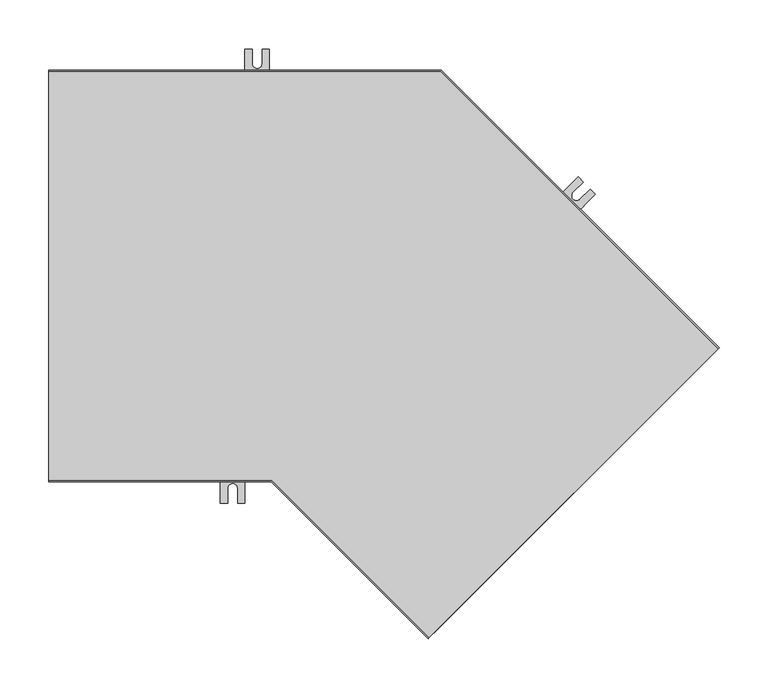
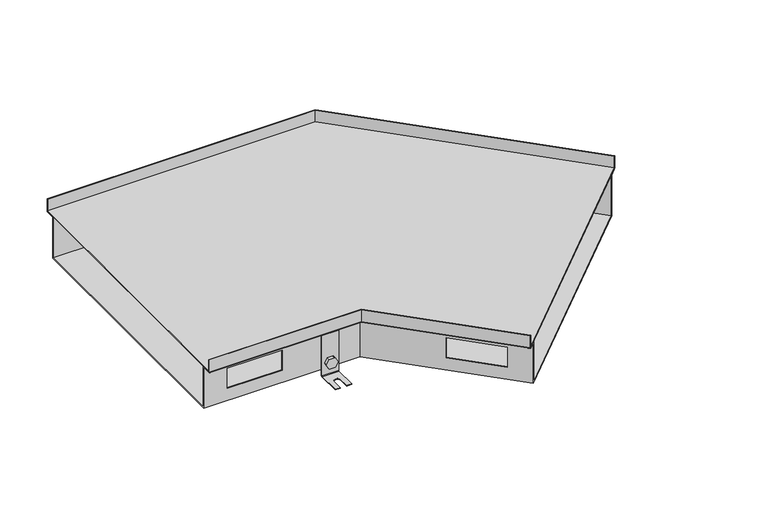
"""IFC4 building model written with IfcOpenShell, lengths in millimetres: proxy geometry, TECHNO_Угловой элемент_KVU : 420_085_135°."""

from ifc_helpers import new_model, si_unit, point, frame, frame_2d, origin, place, context, project, spatial, polyline, circle_curve, ellipse_curve, trimmed, segment, composite_curve, outline, extrude, source, transform, mapped, element, save
from ifc_brep_helpers import plane_surface, cylinder_surface, revolved_surface, advanced_brep


def mechanical_equipment_ce1018f7(model_context):
    return source(origin(), model_context, "Body", "SolidModel", [
        extrude(outline(composite_curve([segment(trimmed(circle_curve(frame_2d((0.0, -7.4999999)), 7.5), [point((0.0, -15.0))], [point((0.0, 0.0))], False, "CARTESIAN"), True, "CONTINUOUS"), segment(trimmed(circle_curve(frame_2d((0.0, -7.4999999)), 7.5), [point((0.0, 0.0))], [point((0.0, -15.0))], False, "CARTESIAN"), True, "CONTINUOUS")], self_intersect=False)), frame((475.1997654, -27.3757464, -75.5), z_axis=(0.7071067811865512, 0.7071067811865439, 0.0), x_axis=(0.0, 0.0, 1.0)), (0.0, 0.0, 1.0), 1.5),
        extrude(outline(polyline([(0.0, 0.0), (8.6602541, 0.0), (12.9903811, -7.5), (8.6602541, -15.0), (0.0, -15.0), (-4.330127, -7.5), (0.0, 0.0)])), frame((459.3179675, -20.4034939, -75.5), z_axis=(0.7071067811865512, 0.7071067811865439, 0.0), x_axis=(0.3535533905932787, -0.3535533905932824, -0.8660254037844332)), (0.0, 0.0, 1.0), 5.1),
        advanced_brep(
        [(477.8867712, -31.7598085, -30.5), (477.8867712, -31.7598085, -93.5), (477.3210858, -32.3254939, -94.3), (453.986562, -55.6600177, -94.3), (453.986562, -55.6600177, -95.5), (477.3210858, -32.3254939, -95.5), (478.7352993, -30.9112804, -93.5), (478.7352993, -30.9112804, -30.5), (460.2091017, -14.082139, -30.5), (461.0576298, -13.2336108, -30.5), (461.0576298, -13.2336108, -93.5), (459.6434162, -14.6478244, -95.5), (436.3088924, -37.9823482, -95.5), (436.3088924, -37.9823482, -94.3), (459.6434162, -14.6478244, -94.3), (460.2091017, -14.082139, -93.5), (441.6121933, -43.285649, -94.3), (452.218795, -32.6790473, -94.3), (459.2898628, -39.7501151, -94.3), (448.6832611, -50.3567168, -94.3), (448.6832611, -50.3567168, -95.5), (441.6121933, -43.285649, -95.5), (459.2898628, -39.7501151, -95.5), (452.218795, -32.6790473, -95.5)],
        [
            (0, 1),
            (1, 2, circle_curve(frame((477.3210858, -32.3254939, -93.5), z_axis=(-0.7071067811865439, 0.7071067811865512, 0.0), x_axis=(-0.7071067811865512, -0.7071067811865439, 0.0)), 0.8)),
            (2, 3),
            (3, 4),
            (4, 5),
            (5, 6, circle_curve(frame((477.3210858, -32.3254939, -93.5), z_axis=(0.7071067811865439, -0.7071067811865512, 0.0), x_axis=(-0.7071067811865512, -0.7071067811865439, 0.0)), 2.0)),
            (6, 7),
            (7, 0),
            (8, 9),
            (9, 10),
            (10, 11, circle_curve(frame((459.6434162, -14.6478244, -93.5), z_axis=(-0.7071067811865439, 0.7071067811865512, 0.0), x_axis=(-0.7071067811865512, -0.7071067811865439, 0.0)), 2.0)),
            (11, 12),
            (12, 13),
            (13, 14),
            (14, 15, circle_curve(frame((459.6434162, -14.6478244, -93.5), z_axis=(0.7071067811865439, -0.7071067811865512, 0.0), x_axis=(-0.7071067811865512, -0.7071067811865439, 0.0)), 0.8)),
            (15, 8),
            (0, 8),
            (15, 1),
            (14, 2),
            (13, 16),
            (16, 17),
            (17, 18, circle_curve(frame((455.7543289, -36.2145812, -94.3), z_axis=(0.0, 0.0, -1.0), x_axis=(0.7071067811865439, -0.7071067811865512, 0.0)), 5.0)),
            (18, 19),
            (19, 3),
            (19, 20),
            (20, 4),
            (12, 21),
            (21, 16),
            (20, 22),
            (22, 23, circle_curve(frame((455.7543289, -36.2145812, -95.5), z_axis=(0.0, 0.0, 1.0), x_axis=(0.7071067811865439, -0.7071067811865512, 0.0)), 5.0)),
            (23, 21),
            (11, 5),
            (10, 6),
            (9, 7),
            (23, 17),
            (18, 22),
        ],
        [
            plane_surface(frame((477.8867712, -31.7598085, -30.5), z_axis=(0.7071067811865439, -0.7071067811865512, 0.0), x_axis=(0.0, 0.0, -1.0))),
            plane_surface(frame((460.2091017, -14.082139, -30.5), z_axis=(-0.7071067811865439, 0.7071067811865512, 0.0), x_axis=(0.0, 0.0, 1.0))),
            plane_surface(frame((477.8867712, -31.7598085, -30.5), z_axis=(-0.7071067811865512, -0.7071067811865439, 0.0), x_axis=(-0.7071067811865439, 0.7071067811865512, 0.0))),
            revolved_surface(polyline([(459.0777307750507, -15.213509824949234, -93.5), (476.75540032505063, -32.89117937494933, -93.5)]), (459.6434162, -14.6478244, -93.5), (-0.7071067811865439, 0.7071067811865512, 0.0)),
            plane_surface(frame((477.3210858, -32.3254939, -94.3), z_axis=(0.0, 0.0, 1.0), x_axis=(-0.7071067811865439, 0.7071067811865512, 0.0))),
            plane_surface(frame((453.986562, -55.6600177, -94.3), z_axis=(-0.7071067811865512, -0.7071067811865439, 0.0), x_axis=(-0.7071067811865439, 0.7071067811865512, 0.0))),
            plane_surface(frame((453.986562, -55.6600177, -95.5), z_axis=(0.0, 0.0, -1.0), x_axis=(-0.7071067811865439, 0.7071067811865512, 0.0))),
            cylinder_surface(frame((459.6434162, -14.6478244, -93.5), z_axis=(0.7071067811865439, -0.7071067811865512, 0.0), x_axis=(-0.7071067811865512, -0.7071067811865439, 0.0)), 2.0),
            plane_surface(frame((478.7352993, -30.9112804, -93.5), z_axis=(0.7071067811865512, 0.7071067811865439, 0.0), x_axis=(-0.7071067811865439, 0.7071067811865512, 0.0))),
            plane_surface(frame((478.7352993, -30.9112804, -30.5), z_axis=(0.0, 0.0, 1.0), x_axis=(-0.7071067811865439, 0.7071067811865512, 0.0))),
            plane_surface(frame((452.218795, -32.6790473, -94.3), z_axis=(0.7071067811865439, -0.7071067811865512, 0.0), x_axis=(0.0, 0.0, -1.0))),
            plane_surface(frame((448.6832611, -50.3567168, -94.3), z_axis=(-0.707106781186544, 0.7071067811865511, 0.0), x_axis=(0.0, 0.0, -1.0))),
            revolved_surface(polyline([(459.2898628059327, -39.75011510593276, -94.3), (459.2898628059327, -39.75011510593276, -95.5)]), (455.7543289, -36.2145812, -95.5), (0.0, 0.0, 1.0)),
        ],
        [
            (0, [[1, 2, 3, 4, 5, 6, 7, 8]]),
            (1, [[9, 10, 11, 12, 13, 14, 15, 16]]),
            (2, [[-1, 17, -16, 18]]),
            (3, [[-2, -18, -15, 19]]),
            (4, [[-3, -19, -14, 20, 21, 22, 23, 24]]),
            (5, [[-4, -24, 25, 26]]),
            (5, [[-13, 27, 28, -20]]),
            (6, [[-5, -26, 29, 30, 31, -27, -12, 32]]),
            (7, [[-6, -32, -11, 33]]),
            (8, [[-7, -33, -10, 34]]),
            (9, [[-8, -34, -9, -17]]),
            (10, [[35, -21, -28, -31]]),
            (11, [[36, -29, -25, -23]]),
            (12, [[-35, -30, -36, -22]]),
        ],
    ),
        extrude(outline(composite_curve([segment(trimmed(circle_curve(frame_2d((0.0, -7.5000001)), 7.5), [point((0.0, -15.0))], [point((0.0, 0.0))], False, "CARTESIAN"), True, "CONTINUOUS"), segment(trimmed(circle_curve(frame_2d((0.0, -7.5000001)), 7.5), [point((0.0, 0.0))], [point((0.0, -15.0))], False, "CARTESIAN"), True, "CONTINUOUS")], self_intersect=False)), frame((517.8383043, 71.831335, -75.5), z_axis=(0.7071067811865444, 0.7071067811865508, 0.0), x_axis=(0.0, 0.0, -1.0)), (0.0, 0.0, 1.0), 1.5),
        extrude(outline(polyline([(0.0, 0.0), (4.330127, -7.5), (0.0, -15.0), (-8.6602541, -15.0), (-12.9903811, -7.5), (-8.660254, 0.0), (0.0, 0.0)])), frame((531.1745178, 62.313498, -75.5), z_axis=(0.7071067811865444, 0.7071067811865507, 0.0), x_axis=(0.35355339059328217, -0.35355339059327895, 0.8660254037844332)), (0.0, 0.0, 1.0), 5.1),
        advanced_brep(
        [(516.2119587, 77.2760572, -30.5), (516.2119587, 77.2760572, -93.5), (516.7776441, 77.8417426, -94.3), (540.1121679, 101.1762664, -94.3), (540.1121679, 101.1762664, -95.5), (516.7776441, 77.8417426, -95.5), (515.3634306, 76.427529, -93.5), (515.3634306, 76.427529, -30.5), (533.8896283, 59.5983876, -30.5), (533.0411001, 58.7498595, -30.5), (533.0411001, 58.7498595, -93.5), (534.4553137, 60.1640731, -95.5), (557.7898375, 83.4985968, -95.5), (557.7898375, 83.4985968, -94.3), (534.4553137, 60.1640731, -94.3), (533.8896283, 59.5983876, -93.5), (552.4865366, 88.8018977, -94.3), (541.8799349, 78.195296, -94.3), (534.8088671, 85.2663638, -94.3), (545.4154688, 95.8729655, -94.3), (545.4154688, 95.8729655, -95.5), (552.4865366, 88.8018977, -95.5), (534.8088671, 85.2663638, -95.5), (541.8799349, 78.195296, -95.5)],
        [
            (0, 1),
            (1, 2, circle_curve(frame((516.7776441, 77.8417426, -93.5), z_axis=(0.7071067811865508, -0.7071067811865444, 0.0), x_axis=(0.7071067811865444, 0.7071067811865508, 0.0)), 0.8)),
            (2, 3),
            (3, 4),
            (4, 5),
            (5, 6, circle_curve(frame((516.7776441, 77.8417426, -93.5), z_axis=(-0.7071067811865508, 0.7071067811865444, 0.0), x_axis=(0.7071067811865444, 0.7071067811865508, 0.0)), 2.0)),
            (6, 7),
            (7, 0),
            (8, 9),
            (9, 10),
            (10, 11, circle_curve(frame((534.4553137, 60.1640731, -93.5), z_axis=(0.7071067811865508, -0.7071067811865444, 0.0), x_axis=(0.7071067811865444, 0.7071067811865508, 0.0)), 2.0)),
            (11, 12),
            (12, 13),
            (13, 14),
            (14, 15, circle_curve(frame((534.4553137, 60.1640731, -93.5), z_axis=(-0.7071067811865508, 0.7071067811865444, 0.0), x_axis=(0.7071067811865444, 0.7071067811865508, 0.0)), 0.8)),
            (15, 8),
            (0, 8),
            (15, 1),
            (14, 2),
            (13, 16),
            (16, 17),
            (17, 18, circle_curve(frame((538.344401, 81.7308299, -94.3), z_axis=(0.0, 0.0, -1.0), x_axis=(-0.7071067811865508, 0.7071067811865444, 0.0)), 5.0)),
            (18, 19),
            (19, 3),
            (19, 20),
            (20, 4),
            (12, 21),
            (21, 16),
            (20, 22),
            (22, 23, circle_curve(frame((538.344401, 81.7308299, -95.5), z_axis=(0.0, 0.0, 1.0), x_axis=(-0.7071067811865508, 0.7071067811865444, 0.0)), 5.0)),
            (23, 21),
            (11, 5),
            (10, 6),
            (9, 7),
            (23, 17),
            (18, 22),
        ],
        [
            plane_surface(frame((516.2119587, 77.2760572, -30.5), z_axis=(-0.7071067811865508, 0.7071067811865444, 0.0), x_axis=(0.0, 0.0, -1.0))),
            plane_surface(frame((533.8896283, 59.5983876, -30.5), z_axis=(0.7071067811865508, -0.7071067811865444, 0.0), x_axis=(0.0, 0.0, 1.0))),
            plane_surface(frame((516.2119587, 77.2760572, -30.5), z_axis=(0.7071067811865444, 0.7071067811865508, 0.0), x_axis=(0.7071067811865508, -0.7071067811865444, 0.0))),
            revolved_surface(polyline([(535.0209991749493, 60.72975847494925, -93.5), (517.3433295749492, 78.4074280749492, -93.5)]), (534.4553137, 60.1640731, -93.5), (0.7071067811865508, -0.7071067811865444, 0.0)),
            plane_surface(frame((516.7776441, 77.8417426, -94.3), z_axis=(0.0, 0.0, 1.0000000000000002), x_axis=(0.7071067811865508, -0.7071067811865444, 0.0))),
            plane_surface(frame((540.1121679, 101.1762664, -94.3), z_axis=(0.7071067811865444, 0.7071067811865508, 0.0), x_axis=(0.7071067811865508, -0.7071067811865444, 0.0))),
            plane_surface(frame((540.1121679, 101.1762664, -95.5), z_axis=(0.0, 0.0, -1.0000000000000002), x_axis=(0.7071067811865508, -0.7071067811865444, 0.0))),
            cylinder_surface(frame((534.4553137, 60.1640731, -93.5), z_axis=(-0.7071067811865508, 0.7071067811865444, 0.0), x_axis=(0.7071067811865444, 0.7071067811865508, 0.0)), 2.0),
            plane_surface(frame((515.3634306, 76.427529, -93.5), z_axis=(-0.7071067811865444, -0.7071067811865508, 0.0), x_axis=(0.7071067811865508, -0.7071067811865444, 0.0))),
            plane_surface(frame((515.3634306, 76.427529, -30.5), z_axis=(0.0, 0.0, 1.0000000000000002), x_axis=(0.7071067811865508, -0.7071067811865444, 0.0))),
            plane_surface(frame((541.8799349, 78.195296, -94.3), z_axis=(-0.7071067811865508, 0.7071067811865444, 0.0), x_axis=(0.0, 0.0, -1.0))),
            plane_surface(frame((545.4154688, 95.8729655, -94.3), z_axis=(0.7071067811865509, -0.7071067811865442, 0.0), x_axis=(0.0, 0.0, -1.0))),
            revolved_surface(polyline([(534.8088670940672, 85.26636380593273, -94.3), (534.8088670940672, 85.26636380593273, -95.5)]), (538.344401, 81.7308299, -95.5), (0.0, 0.0, 1.0)),
        ],
        [
            (0, [[1, 2, 3, 4, 5, 6, 7, 8]]),
            (1, [[9, 10, 11, 12, 13, 14, 15, 16]]),
            (2, [[-1, 17, -16, 18]]),
            (3, [[-2, -18, -15, 19]]),
            (4, [[-3, -19, -14, 20, 21, 22, 23, 24]]),
            (5, [[-4, -24, 25, 26]]),
            (5, [[-13, 27, 28, -20]]),
            (6, [[-5, -26, 29, 30, 31, -27, -12, 32]]),
            (7, [[-6, -32, -11, 33]]),
            (8, [[-7, -33, -10, 34]]),
            (9, [[-8, -34, -9, -17]]),
            (10, [[35, -21, -28, -31]]),
            (11, [[36, -29, -25, -23]]),
            (12, [[-35, -30, -36, -22]]),
        ],
    ),
        extrude(outline(composite_curve([segment(trimmed(circle_curve(frame_2d((-75.5, 212.5)), 7.5), [point((-75.5, 205.0))], [point((-75.5, 220.0))], False, "CARTESIAN"), True, "CONTINUOUS"), segment(trimmed(circle_curve(frame_2d((-75.5, 212.5)), 7.5), [point((-75.5, 220.0))], [point((-75.5, 205.0))], False, "CARTESIAN"), True, "CONTINUOUS")], self_intersect=False)), frame((0.0, 195.2, 0.0), z_axis=(0.0, 1.0, 0.0), x_axis=(0.0, 0.0, 1.0)), (0.0, 0.0, 1.0), 1.5),
        extrude(outline(polyline([(-75.5, 203.839746), (-83.0, 208.169873), (-83.0, 216.830127), (-75.5, 221.160254), (-68.0, 216.830127), (-68.0, 208.169873), (-75.5, 203.839746)])), frame((0.0, 197.9, 0.0), z_axis=(0.0, 1.0, 0.0), x_axis=(0.0, 0.0, 1.0)), (0.0, 0.0, 1.0), 5.1),
        advanced_brep(
        [(225.0, 197.9, -30.5), (225.0, 196.7, -30.5), (225.0, 196.7, -93.5), (225.0, 198.7, -95.5), (225.0, 231.7, -95.5), (225.0, 231.7, -94.3), (225.0, 198.7, -94.3), (225.0, 197.9, -93.5), (200.0, 197.9, -30.5), (200.0, 197.9, -93.5), (200.0, 198.7, -94.3), (200.0, 231.7, -94.3), (200.0, 231.7, -95.5), (200.0, 198.7, -95.5), (200.0, 196.7, -93.5), (200.0, 196.7, -30.5), (217.5, 231.7, -94.3), (217.5, 216.7, -94.3), (207.5, 216.7, -94.3), (207.5, 231.7, -94.3), (207.5, 231.7, -95.5), (217.5, 231.7, -95.5), (207.5, 216.7, -95.5), (217.5, 216.7, -95.5)],
        [
            (0, 1),
            (1, 2),
            (2, 3, circle_curve(frame((225.0, 198.7, -93.5), z_axis=(1.0, 0.0, 0.0), x_axis=(0.0, 1.0, 0.0)), 2.0)),
            (3, 4),
            (4, 5),
            (5, 6),
            (6, 7, circle_curve(frame((225.0, 198.7, -93.5), z_axis=(-1.0, 0.0, 0.0), x_axis=(0.0, 1.0, 0.0)), 0.8)),
            (7, 0),
            (8, 9),
            (9, 10, circle_curve(frame((200.0, 198.7, -93.5), z_axis=(1.0, 0.0, 0.0), x_axis=(0.0, 1.0, 0.0)), 0.8)),
            (10, 11),
            (11, 12),
            (12, 13),
            (13, 14, circle_curve(frame((200.0, 198.7, -93.5), z_axis=(-1.0, 0.0, 0.0), x_axis=(0.0, 1.0, 0.0)), 2.0)),
            (14, 15),
            (15, 8),
            (7, 9),
            (8, 0),
            (6, 10),
            (5, 16),
            (16, 17),
            (17, 18, circle_curve(frame((212.5, 216.7, -94.3), z_axis=(0.0, 0.0, -1.0), x_axis=(1.0, 0.0, 0.0)), 5.0)),
            (18, 19),
            (19, 11),
            (19, 20),
            (20, 12),
            (4, 21),
            (21, 16),
            (3, 13),
            (20, 22),
            (22, 23, circle_curve(frame((212.5, 216.7, -95.5), z_axis=(0.0, 0.0, 1.0), x_axis=(1.0, 0.0, 0.0)), 5.0)),
            (23, 21),
            (2, 14),
            (1, 15),
            (18, 22),
            (23, 17),
        ],
        [
            plane_surface(frame((225.0, 197.9, -30.5), z_axis=(1.0, 0.0, 0.0), x_axis=(0.0, 0.0, -1.0))),
            plane_surface(frame((200.0, 197.9, -30.5), z_axis=(-1.0, 0.0, 0.0), x_axis=(0.0, 0.0, 1.0))),
            plane_surface(frame((225.0, 197.9, -30.5), z_axis=(0.0, 1.0, 0.0), x_axis=(-1.0, 0.0, 0.0))),
            revolved_surface(polyline([(200.0, 199.5, -93.5), (225.0, 199.5, -93.5)]), (200.0, 198.7, -93.5), (-1.0, 0.0, 0.0)),
            plane_surface(frame((225.0, 198.7, -94.3), z_axis=(0.0, 0.0, 1.0), x_axis=(-1.0, 0.0, 0.0))),
            plane_surface(frame((225.0, 231.7, -94.3), z_axis=(0.0, 1.0, 0.0), x_axis=(-1.0, 0.0, 0.0))),
            plane_surface(frame((225.0, 231.7, -95.5), z_axis=(0.0, 0.0, -1.0), x_axis=(-1.0, 0.0, 0.0))),
            cylinder_surface(frame((200.0, 198.7, -93.5), z_axis=(1.0, 0.0, 0.0), x_axis=(0.0, 1.0, 0.0)), 2.0),
            plane_surface(frame((225.0, 196.7, -93.5), z_axis=(0.0, -1.0, 0.0), x_axis=(-1.0, 0.0, 0.0))),
            plane_surface(frame((225.0, 196.7, -30.5), z_axis=(0.0, 0.0, 1.0), x_axis=(-1.0, 0.0, 0.0))),
            plane_surface(frame((207.5, 216.7, -94.3), z_axis=(1.0, 0.0, 0.0), x_axis=(0.0, 0.0, -1.0))),
            plane_surface(frame((217.5, 231.7, -94.3), z_axis=(-1.0, 0.0, 0.0), x_axis=(0.0, 0.0, -1.0))),
            revolved_surface(polyline([(217.5, 216.7, -94.3), (217.5, 216.7, -95.5)]), (212.5, 216.7, -95.5), (0.0, 0.0, 1.0)),
        ],
        [
            (0, [[1, 2, 3, 4, 5, 6, 7, 8]]),
            (1, [[9, 10, 11, 12, 13, 14, 15, 16]]),
            (2, [[17, -9, 18, -8]]),
            (3, [[19, -10, -17, -7]]),
            (4, [[20, 21, 22, 23, 24, -11, -19, -6]]),
            (5, [[-24, 25, 26, -12]]),
            (5, [[27, 28, -20, -5]]),
            (6, [[29, -13, -26, 30, 31, 32, -27, -4]]),
            (7, [[33, -14, -29, -3]]),
            (8, [[34, -15, -33, -2]]),
            (9, [[-18, -16, -34, -1]]),
            (10, [[-30, -25, -23, 35]]),
            (11, [[-21, -28, -32, 36]]),
            (12, [[-22, -36, -31, -35]]),
        ],
    ),
        extrude(outline(composite_curve([segment(trimmed(circle_curve(frame_2d((-75.5, 187.5)), 7.5), [point((-75.5, 180.0))], [point((-75.5, 195.0))], False, "CARTESIAN"), True, "CONTINUOUS"), segment(trimmed(circle_curve(frame_2d((-75.5, 187.5)), 7.5), [point((-75.5, 195.0))], [point((-75.5, 180.0))], False, "CARTESIAN"), True, "CONTINUOUS")], self_intersect=False)), frame((0.0, -196.7, 0.0), z_axis=(0.0, 1.0, 0.0), x_axis=(0.0, 0.0, 1.0)), (0.0, 0.0, 1.0), 1.5),
        extrude(outline(polyline([(-75.5, 178.839746), (-83.0, 183.169873), (-83.0, 191.830127), (-75.5, 196.160254), (-68.0, 191.830127), (-68.0, 183.169873), (-75.5, 178.839746)])), frame((0.0, -203.0, 0.0), z_axis=(0.0, 1.0, 0.0), x_axis=(0.0, 0.0, 1.0)), (0.0, 0.0, 1.0), 5.1),
        advanced_brep(
        [(200.0, -197.9, -30.5), (200.0, -197.9, -93.5), (200.0, -198.7, -94.3), (200.0, -231.7, -94.3), (200.0, -231.7, -95.5), (200.0, -198.7, -95.5), (200.0, -196.7, -93.5), (200.0, -196.7, -30.5), (175.0, -197.9, -30.5), (175.0, -196.7, -30.5), (175.0, -196.7, -93.5), (175.0, -198.7, -95.5), (175.0, -231.7, -95.5), (175.0, -231.7, -94.3), (175.0, -198.7, -94.3), (175.0, -197.9, -93.5), (182.5, -231.7, -94.3), (182.5, -216.7, -94.3), (192.5, -216.7, -94.3), (192.5, -231.7, -94.3), (192.5, -231.7, -95.5), (182.5, -231.7, -95.5), (192.5, -216.7, -95.5), (182.5, -216.7, -95.5)],
        [
            (0, 1),
            (1, 2, circle_curve(frame((200.0, -198.7, -93.5), z_axis=(-1.0, 0.0, 0.0), x_axis=(0.0, -1.0, 0.0)), 0.8)),
            (2, 3),
            (3, 4),
            (4, 5),
            (5, 6, circle_curve(frame((200.0, -198.7, -93.5), z_axis=(1.0, 0.0, 0.0), x_axis=(0.0, -1.0, 0.0)), 2.0)),
            (6, 7),
            (7, 0),
            (8, 9),
            (9, 10),
            (10, 11, circle_curve(frame((175.0, -198.7, -93.5), z_axis=(-1.0, 0.0, 0.0), x_axis=(0.0, -1.0, 0.0)), 2.0)),
            (11, 12),
            (12, 13),
            (13, 14),
            (14, 15, circle_curve(frame((175.0, -198.7, -93.5), z_axis=(1.0, 0.0, 0.0), x_axis=(0.0, -1.0, 0.0)), 0.8)),
            (15, 8),
            (0, 8),
            (15, 1),
            (14, 2),
            (13, 16),
            (16, 17),
            (17, 18, circle_curve(frame((187.5, -216.7, -94.3), z_axis=(0.0, 0.0, -1.0), x_axis=(1.0, 0.0, 0.0)), 5.0)),
            (18, 19),
            (19, 3),
            (19, 20),
            (20, 4),
            (12, 21),
            (21, 16),
            (20, 22),
            (22, 23, circle_curve(frame((187.5, -216.7, -95.5), z_axis=(0.0, 0.0, 1.0), x_axis=(1.0, 0.0, 0.0)), 5.0)),
            (23, 21),
            (11, 5),
            (10, 6),
            (9, 7),
            (23, 17),
            (18, 22),
        ],
        [
            plane_surface(frame((200.0, -197.9, -30.5), z_axis=(1.0, 0.0, 0.0), x_axis=(0.0, 0.0, -1.0))),
            plane_surface(frame((175.0, -197.9, -30.5), z_axis=(-1.0, 0.0, 0.0), x_axis=(0.0, 0.0, 1.0))),
            plane_surface(frame((200.0, -197.9, -30.5), z_axis=(0.0, -1.0, 0.0), x_axis=(-1.0, 0.0, 0.0))),
            revolved_surface(polyline([(175.0, -199.5, -93.5), (200.0, -199.5, -93.5)]), (175.0, -198.7, -93.5), (-1.0, 0.0, 0.0)),
            plane_surface(frame((200.0, -198.7, -94.3), z_axis=(0.0, 0.0, 1.0), x_axis=(-1.0, 0.0, 0.0))),
            plane_surface(frame((200.0, -231.7, -94.3), z_axis=(0.0, -1.0, 0.0), x_axis=(-1.0, 0.0, 0.0))),
            plane_surface(frame((200.0, -231.7, -95.5), z_axis=(0.0, 0.0, -1.0), x_axis=(-1.0, 0.0, 0.0))),
            cylinder_surface(frame((175.0, -198.7, -93.5), z_axis=(1.0, 0.0, 0.0), x_axis=(0.0, -1.0, 0.0)), 2.0),
            plane_surface(frame((200.0, -196.7, -93.5), z_axis=(0.0, 1.0, 0.0), x_axis=(-1.0, 0.0, 0.0))),
            plane_surface(frame((200.0, -196.7, -30.5), z_axis=(0.0, 0.0, 1.0), x_axis=(-1.0, 0.0, 0.0))),
            plane_surface(frame((182.5, -216.7, -94.3), z_axis=(1.0, 0.0, 0.0), x_axis=(0.0, 0.0, -1.0))),
            plane_surface(frame((192.5, -231.7, -94.3), z_axis=(-1.0, 0.0, 0.0), x_axis=(0.0, 0.0, -1.0))),
            revolved_surface(polyline([(192.5, -216.7, -94.3), (192.5, -216.7, -95.5)]), (187.5, -216.7, -95.5), (0.0, 0.0, 1.0)),
        ],
        [
            (0, [[1, 2, 3, 4, 5, 6, 7, 8]]),
            (1, [[9, 10, 11, 12, 13, 14, 15, 16]]),
            (2, [[-1, 17, -16, 18]]),
            (3, [[-2, -18, -15, 19]]),
            (4, [[-3, -19, -14, 20, 21, 22, 23, 24]]),
            (5, [[-4, -24, 25, 26]]),
            (5, [[-13, 27, 28, -20]]),
            (6, [[-5, -26, 29, 30, 31, -27, -12, 32]]),
            (7, [[-6, -32, -11, 33]]),
            (8, [[-7, -33, -10, 34]]),
            (9, [[-8, -34, -9, -17]]),
            (10, [[35, -21, -28, -31]]),
            (11, [[36, -29, -25, -23]]),
            (12, [[-35, -30, -36, -22]]),
        ],
    ),
        extrude(outline(polyline([(683.0184484, -74.1155047), (387.7306566, -369.4032965), (227.1273601, -208.8), (0.0, -208.8), (0.0, 208.8), (400.1029437, 208.8), (683.0184484, -74.1155047)])), frame((0.0, 0.0, -19.3), z_axis=(0.0, 0.0, 1.0), x_axis=(1.0, 0.0, 0.0)), (0.0, 0.0, 1.0), 1.2),
        advanced_brep(
        [(386.8821284, -370.2518246, -19.3), (387.7306566, -369.4032965, -20.5), (397.3473088, -359.7866443, -20.5), (397.3473088, -359.7866443, -85.0), (673.4017962, -83.7321569, -85.0), (673.4017962, -83.7321569, -20.5), (683.0184484, -74.1155047, -20.5), (683.8669765, -73.2669765, -19.3), (683.8669765, -73.2669765, 0.0), (683.0184484, -74.1155047, 0.0), (683.0184484, -74.1155047, -19.3), (673.4017962, -83.7321569, -19.3), (672.553268, -84.580685, -20.5), (672.553268, -84.580685, -83.8), (398.1958369, -358.9381161, -83.8), (398.1958369, -358.9381161, -20.5), (397.3473088, -359.7866443, -19.3), (387.7306566, -369.4032965, -19.3), (387.7306566, -369.4032965, 0.0), (386.8821284, -370.2518246, 0.0), (0.0, -210.0, -19.3), (0.0, -210.0, 0.0), (0.0, -208.8, 0.0), (0.0, -208.8, -19.3), (0.0, -195.2, -19.3), (0.0, -194.0, -20.5), (0.0, -194.0, -83.8), (0.0, 194.0, -83.8), (0.0, 194.0, -20.5), (0.0, 195.2, -19.3), (0.0, 208.8, -19.3), (0.0, 208.8, 0.0), (0.0, 210.0, 0.0), (0.0, 210.0, -19.3), (0.0, 208.8, -20.5), (0.0, 195.2, -20.5), (0.0, 195.2, -85.0), (0.0, -195.2, -85.0), (0.0, -195.2, -20.5), (0.0, -208.8, -20.5), (227.1273601, -208.8, -20.5), (226.6303038, -210.0, -19.3), (227.1273601, -208.8, 0.0), (227.1273601, -208.8, -19.3), (232.7606645, -195.2, -85.0), (232.7606645, -195.2, -20.5), (35.0, -195.2, -34.2), (117.0, -195.2, -34.2), (117.0, -195.2, -66.2), (35.0, -195.2, -66.2), (233.2577208, -194.0, -20.5), (233.2577208, -194.0, -83.8), (117.0, -194.0, -34.2), (35.0, -194.0, -34.2), (35.0, -194.0, -66.2), (117.0, -194.0, -66.2), (232.7606645, -195.2, -19.3), (314.6158154, -277.0551509, -34.2), (372.5985715, -335.0379069, -34.2), (372.5985715, -335.0379069, -66.2), (314.6158154, -277.0551509, -66.2), (394.4696393, 195.2, -85.0), (393.972583, 194.0, -83.8), (373.4470996, -334.1893788, -34.2), (315.4643435, -276.2066227, -34.2), (315.4643435, -276.2066227, -66.2), (373.4470996, -334.1893788, -66.2), (226.6303038, -210.0, 0.0), (394.4696393, 195.2, -20.5), (648.6530588, -58.9834196, -34.2), (590.6703028, -1.0006635, -34.2), (590.6703028, -1.0006635, -66.2), (648.6530588, -58.9834196, -66.2), (400.1029437, 208.8, -20.5), (400.6, 210.0, -19.3), (400.6, 210.0, 0.0), (400.1029437, 208.8, 0.0), (400.1029437, 208.8, -19.3), (394.4696393, 195.2, -19.3), (393.972583, 194.0, -20.5), (589.8217746, -1.8491916, -34.2), (647.8045307, -59.8319477, -34.2), (647.8045307, -59.8319477, -66.2), (589.8217746, -1.8491916, -66.2), (117.0, 195.2, -34.2), (35.0, 195.2, -34.2), (35.0, 195.2, -66.2), (117.0, 195.2, -66.2), (35.0, 194.0, -34.2), (117.0, 194.0, -34.2), (117.0, 194.0, -66.2), (35.0, 194.0, -66.2)],
        [
            (0, 1, circle_curve(frame((387.7306566, -369.4032965, -19.3), z_axis=(0.7071067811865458, -0.7071067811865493, 0.0), x_axis=(-0.7071067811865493, -0.7071067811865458, 0.0)), 1.2)),
            (1, 2),
            (2, 3),
            (3, 4),
            (4, 5),
            (5, 6),
            (6, 7, circle_curve(frame((683.0184484, -74.1155047, -19.3), z_axis=(0.7071067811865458, -0.7071067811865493, 0.0), x_axis=(-0.7071067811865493, -0.7071067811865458, 0.0)), 1.2)),
            (7, 8),
            (8, 9),
            (9, 10),
            (10, 11),
            (11, 12, circle_curve(frame((673.4017962, -83.7321569, -20.5), z_axis=(0.7071067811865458, -0.7071067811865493, 0.0), x_axis=(-0.7071067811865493, -0.7071067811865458, 0.0)), 1.2)),
            (12, 13),
            (13, 14),
            (14, 15),
            (15, 16, circle_curve(frame((397.3473088, -359.7866443, -20.5), z_axis=(0.7071067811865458, -0.7071067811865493, 0.0), x_axis=(-0.7071067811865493, -0.7071067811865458, 0.0)), 1.2)),
            (16, 17),
            (17, 18),
            (18, 19),
            (19, 0),
            (20, 21),
            (21, 22),
            (22, 23),
            (23, 24),
            (24, 25, circle_curve(frame((0.0, -195.2, -20.5), z_axis=(-1.0, 0.0, 0.0), x_axis=(0.0, -1.0, 0.0)), 1.2)),
            (25, 26),
            (26, 27),
            (27, 28),
            (28, 29, circle_curve(frame((0.0, 195.2, -20.5), z_axis=(-1.0, 0.0, 0.0), x_axis=(0.0, -1.0, 0.0)), 1.2)),
            (29, 30),
            (30, 31),
            (31, 32),
            (32, 33),
            (33, 34, circle_curve(frame((0.0, 208.8, -19.3), z_axis=(-1.0, 0.0, 0.0), x_axis=(0.0, -1.0, 0.0)), 1.2)),
            (34, 35),
            (35, 36),
            (36, 37),
            (37, 38),
            (38, 39),
            (39, 20, circle_curve(frame((0.0, -208.8, -19.3), z_axis=(-1.0, 0.0, 0.0), x_axis=(0.0, -1.0, 0.0)), 1.2)),
            (39, 40),
            (40, 41, ellipse_curve(frame((227.1273601, -208.8, -19.3), z_axis=(-0.9238795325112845, 0.38268343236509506, 0.0), x_axis=(0.38268343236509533, 0.9238795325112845, 0.0)), 1.2988706, 1.2)),
            (41, 20),
            (22, 42),
            (42, 43),
            (43, 23),
            (37, 44),
            (44, 45),
            (45, 38),
            (46, 47),
            (47, 48),
            (48, 49),
            (49, 46),
            (25, 50),
            (50, 51),
            (51, 26),
            (52, 53),
            (53, 54),
            (54, 55),
            (55, 52),
            (24, 56),
            (56, 50, ellipse_curve(frame((232.7606645, -195.2, -20.5), z_axis=(-0.9238795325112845, 0.38268343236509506, 0.0), x_axis=(0.38268343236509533, 0.9238795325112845, 0.0)), 1.2988706, 1.2)),
            (0, 41),
            (40, 1),
            (45, 2),
            (44, 3),
            (57, 58),
            (58, 59),
            (59, 60),
            (60, 57),
            (36, 61),
            (61, 4),
            (13, 62),
            (62, 27),
            (51, 14),
            (50, 15),
            (63, 64),
            (64, 65),
            (65, 66),
            (66, 63),
            (56, 16),
            (43, 17),
            (42, 18),
            (21, 67),
            (67, 19),
            (61, 68),
            (68, 5),
            (69, 70),
            (70, 71),
            (71, 72),
            (72, 69),
            (68, 35),
            (34, 73),
            (73, 6),
            (73, 74, ellipse_curve(frame((400.1029437, 208.8, -19.3), z_axis=(0.9238795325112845, -0.38268343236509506, 0.0), x_axis=(-0.38268343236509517, -0.9238795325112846, 0.0)), 1.2988706, 1.2)),
            (74, 7),
            (74, 75),
            (75, 8),
            (75, 32),
            (31, 76),
            (76, 9),
            (76, 77),
            (77, 10),
            (77, 30),
            (29, 78),
            (78, 11),
            (78, 79, ellipse_curve(frame((394.4696393, 195.2, -20.5), z_axis=(0.9238795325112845, -0.38268343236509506, 0.0), x_axis=(-0.38268343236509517, -0.9238795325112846, 0.0)), 1.2988706, 1.2)),
            (79, 12),
            (79, 62),
            (80, 81),
            (81, 82),
            (82, 83),
            (83, 80),
            (84, 85),
            (85, 86),
            (86, 87),
            (87, 84),
            (33, 74),
            (28, 79),
            (88, 89),
            (89, 90),
            (90, 91),
            (91, 88),
            (41, 67),
            (46, 53),
            (52, 47),
            (88, 85),
            (84, 89),
            (49, 54),
            (91, 86),
            (48, 55),
            (90, 87),
            (57, 64),
            (63, 58),
            (80, 70),
            (69, 81),
            (66, 59),
            (72, 82),
            (65, 60),
            (71, 83),
        ],
        [
            plane_surface(frame((535.3745525, -221.7594006, 0.0), z_axis=(0.7071067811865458, -0.7071067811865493, 0.0), x_axis=(0.0, 0.0, 1.0))),
            plane_surface(frame((0.0, 0.0, 0.0), z_axis=(-1.0, 0.0, 0.0), x_axis=(0.0, 0.0, 1.0))),
            cylinder_surface(frame((313.6151519, -208.8, -19.3), z_axis=(1.0, 0.0, 0.0), x_axis=(0.0, -1.0, 0.0)), 1.2),
            plane_surface(frame((227.1273601, -208.8, -19.3), z_axis=(0.0, 1.0, 0.0), x_axis=(-1.0, 0.0, 0.0))),
            plane_surface(frame((232.7606645, -195.2, -20.5), z_axis=(0.0, -1.0, 0.0), x_axis=(-1.0, 0.0, 0.0))),
            plane_surface(frame((233.2577208, -194.0, -83.8), z_axis=(0.0, 1.0, 0.0), x_axis=(-1.0, 0.0, 0.0))),
            cylinder_surface(frame((313.6151519, -195.2, -20.5), z_axis=(1.0, 0.0, 0.0), x_axis=(0.0, -1.0, 0.0)), 1.2),
            cylinder_surface(frame((387.7306566, -369.4032965, -19.3), z_axis=(0.7071067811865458, -0.7071067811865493, 0.0), x_axis=(-0.7071067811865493, -0.7071067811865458, 0.0)), 1.2),
            plane_surface(frame((387.7306566, -369.4032965, -20.5), z_axis=(0.0, 0.0, -1.0), x_axis=(-0.7071067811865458, 0.7071067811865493, 0.0))),
            plane_surface(frame((397.3473088, -359.7866443, -20.5), z_axis=(-0.7071067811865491, -0.7071067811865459, 0.0), x_axis=(-0.7071067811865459, 0.7071067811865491, 0.0))),
            plane_surface(frame((397.3473088, -359.7866443, -85.0), z_axis=(0.0, 0.0, -1.0000000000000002), x_axis=(-0.7071067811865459, 0.7071067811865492, 0.0))),
            plane_surface(frame((672.553268, -84.580685, -83.8), z_axis=(0.0, 0.0, 1.0), x_axis=(-0.7071067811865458, 0.7071067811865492, 0.0))),
            plane_surface(frame((398.1958369, -358.9381161, -83.8), z_axis=(0.7071067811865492, 0.7071067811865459, 0.0), x_axis=(-0.7071067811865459, 0.7071067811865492, 0.0))),
            cylinder_surface(frame((397.3473088, -359.7866443, -20.5), z_axis=(0.7071067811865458, -0.7071067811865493, 0.0), x_axis=(-0.7071067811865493, -0.7071067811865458, 0.0)), 1.2),
            plane_surface(frame((397.3473088, -359.7866443, -19.3), z_axis=(0.0, 0.0, 1.0), x_axis=(-0.7071067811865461, 0.7071067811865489, 0.0))),
            plane_surface(frame((387.7306566, -369.4032965, -19.3), z_axis=(0.7071067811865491, 0.7071067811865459, 0.0), x_axis=(-0.7071067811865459, 0.7071067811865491, 0.0))),
            plane_surface(frame((387.7306566, -369.4032965, 0.0), z_axis=(0.0, 0.0, 1.0), x_axis=(-0.7071067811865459, 0.7071067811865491, 0.0))),
            plane_surface(frame((673.4017962, -83.7321569, -85.0), z_axis=(0.7071067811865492, 0.7071067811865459, 0.0), x_axis=(-0.7071067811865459, 0.7071067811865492, 0.0))),
            plane_surface(frame((673.4017962, -83.7321569, -20.5), z_axis=(0.0, 0.0, -1.0), x_axis=(-0.707106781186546, 0.707106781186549, 0.0))),
            cylinder_surface(frame((683.0184484, -74.1155047, -19.3), z_axis=(0.7071067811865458, -0.7071067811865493, 0.0), x_axis=(-0.7071067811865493, -0.7071067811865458, 0.0)), 1.2),
            plane_surface(frame((683.8669765, -73.2669765, -19.3), z_axis=(0.7071067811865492, 0.7071067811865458, 0.0), x_axis=(-0.7071067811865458, 0.7071067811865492, 0.0))),
            plane_surface(frame((683.8669765, -73.2669765, 0.0), z_axis=(0.0, 0.0, 1.0), x_axis=(-0.7071067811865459, 0.7071067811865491, 0.0))),
            plane_surface(frame((683.0184484, -74.1155047, 0.0), z_axis=(-0.7071067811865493, -0.7071067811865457, 0.0), x_axis=(-0.7071067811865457, 0.7071067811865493, 0.0))),
            plane_surface(frame((683.0184484, -74.1155047, -19.3), z_axis=(0.0, 0.0, 1.0), x_axis=(-0.7071067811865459, 0.7071067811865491, 0.0))),
            cylinder_surface(frame((673.4017962, -83.7321569, -20.5), z_axis=(0.7071067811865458, -0.7071067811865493, 0.0), x_axis=(-0.7071067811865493, -0.7071067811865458, 0.0)), 1.2),
            plane_surface(frame((672.553268, -84.580685, -20.5), z_axis=(-0.7071067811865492, -0.7071067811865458, 0.0), x_axis=(-0.7071067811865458, 0.7071067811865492, 0.0))),
            plane_surface(frame((394.4696393, 195.2, -85.0), z_axis=(0.0, 1.0, 0.0), x_axis=(-1.0, 0.0, 0.0))),
            cylinder_surface(frame((313.6151519, 208.8, -19.3), z_axis=(1.0, 0.0, 0.0), x_axis=(0.0, -1.0, 0.0)), 1.2),
            plane_surface(frame((400.6, 210.0, -19.3), z_axis=(0.0, 1.0, 0.0), x_axis=(-1.0, 0.0, 0.0))),
            plane_surface(frame((400.1029437, 208.8, 0.0), z_axis=(0.0, -1.0, 0.0), x_axis=(-1.0, 0.0, 0.0))),
            cylinder_surface(frame((313.6151519, 195.2, -20.5), z_axis=(1.0, 0.0, 0.0), x_axis=(0.0, -1.0, 0.0)), 1.2),
            plane_surface(frame((393.972583, 194.0, -20.5), z_axis=(0.0, -1.0, 0.0), x_axis=(-1.0, 0.0, 0.0))),
            plane_surface(frame((226.6303038, -210.0, 0.0), z_axis=(0.0, -1.0, 0.0), x_axis=(-1.0, 0.0, 0.0))),
            plane_surface(frame((386.8821284, -370.2518246, 0.0), z_axis=(-0.7071067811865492, -0.7071067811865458, 0.0), x_axis=(-0.7071067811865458, 0.7071067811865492, 0.0))),
            plane_surface(frame((35.0, 210.0, -34.2), z_axis=(0.0, 0.0, -1.0), x_axis=(0.0, -1.0, 0.0))),
            plane_surface(frame((35.0, 210.0, -66.2), z_axis=(1.0, 0.0, 0.0), x_axis=(0.0, -1.0, 0.0))),
            plane_surface(frame((117.0, 210.0, -66.2), z_axis=(0.0, 0.0, 1.0), x_axis=(0.0, -1.0, 0.0))),
            plane_surface(frame((117.0, 210.0, -34.2), z_axis=(-1.0, 0.0, 0.0), x_axis=(0.0, -1.0, 0.0))),
            plane_surface(frame((601.1354831, 9.4645169, -34.2), z_axis=(0.0, 0.0, -1.0), x_axis=(-0.7071067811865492, -0.7071067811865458, 0.0))),
            plane_surface(frame((659.1182392, -48.5182392, -34.2), z_axis=(-0.7071067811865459, 0.7071067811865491, 0.0), x_axis=(-0.7071067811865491, -0.7071067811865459, 0.0))),
            plane_surface(frame((659.1182392, -48.5182392, -66.2), z_axis=(0.0, 0.0, 1.0), x_axis=(-0.7071067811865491, -0.7071067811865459, 0.0))),
            plane_surface(frame((601.1354831, 9.4645169, -66.2), z_axis=(0.7071067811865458, -0.7071067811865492, 0.0), x_axis=(-0.7071067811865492, -0.7071067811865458, 0.0))),
        ],
        [
            (0, [[1, 2, 3, 4, 5, 6, 7, 8, 9, 10, 11, 12, 13, 14, 15, 16, 17, 18, 19, 20]]),
            (1, [[21, 22, 23, 24, 25, 26, 27, 28, 29, 30, 31, 32, 33, 34, 35, 36, 37, 38, 39, 40]]),
            (2, [[-40, 41, 42, 43]]),
            (3, [[-23, 44, 45, 46]]),
            (4, [[-38, 47, 48, 49], [50, 51, 52, 53]]),
            (5, [[-26, 54, 55, 56], [57, 58, 59, 60]]),
            (6, [[-25, 61, 62, -54]]),
            (7, [[-1, 63, -42, 64]]),
            (8, [[-2, -64, -41, -39, -49, 65]]),
            (9, [[-3, -65, -48, 66], [67, 68, 69, 70]]),
            (10, [[-4, -66, -47, -37, 71, 72]]),
            (11, [[-14, 73, 74, -27, -56, 75]]),
            (12, [[-15, -75, -55, 76], [77, 78, 79, 80]]),
            (13, [[-16, -76, -62, 81]]),
            (14, [[-17, -81, -61, -24, -46, 82]]),
            (15, [[-18, -82, -45, 83]]),
            (16, [[-19, -83, -44, -22, 84, 85]]),
            (17, [[-5, -72, 86, 87], [88, 89, 90, 91]]),
            (18, [[-6, -87, 92, -35, 93, 94]]),
            (19, [[-7, -94, 95, 96]]),
            (20, [[-8, -96, 97, 98]]),
            (21, [[-9, -98, 99, -32, 100, 101]]),
            (22, [[-10, -101, 102, 103]]),
            (23, [[-11, -103, 104, -30, 105, 106]]),
            (24, [[-12, -106, 107, 108]]),
            (25, [[-13, -108, 109, -73], [110, 111, 112, 113]]),
            (26, [[-36, -92, -86, -71], [114, 115, 116, 117]]),
            (27, [[-34, 118, -95, -93]]),
            (28, [[-33, -99, -97, -118]]),
            (29, [[-31, -104, -102, -100]]),
            (30, [[-29, 119, -107, -105]]),
            (31, [[-28, -74, -109, -119], [120, 121, 122, 123]]),
            (32, [[-21, -43, 124, -84]]),
            (33, [[-20, -85, -124, -63]]),
            (34, [[125, -57, 126, -50]]),
            (34, [[127, -114, 128, -120]]),
            (35, [[-125, -53, 129, -58]]),
            (35, [[-127, -123, 130, -115]]),
            (36, [[-129, -52, 131, -59]]),
            (36, [[-130, -122, 132, -116]]),
            (37, [[-131, -51, -126, -60]]),
            (37, [[-132, -121, -128, -117]]),
            (38, [[133, -77, 134, -67]]),
            (38, [[135, -88, 136, -110]]),
            (39, [[-134, -80, 137, -68]]),
            (39, [[-136, -91, 138, -111]]),
            (40, [[-137, -79, 139, -69]]),
            (40, [[-138, -90, 140, -112]]),
            (41, [[-133, -70, -139, -78]]),
            (41, [[-135, -113, -140, -89]]),
        ],
    ),
    ])


if __name__ == "__main__":
    model = new_model("IFC4")
    model_context = context("Model", 3, world=origin())
    ifc_project = project(units=[si_unit("LENGTHUNIT", "METRE", prefix="MILLI")], contexts=[model_context])
    site = spatial("IfcSite", under=ifc_project)
    building = spatial("IfcBuilding", under=site)
    placement = place(None, origin())
    mechanical_equipment_shape = mechanical_equipment_ce1018f7(model_context)
    element("IfcBuildingElementProxy", 1, Name="TECHNO_Угловой элемент_KVU : 420_085_135°", ObjectType="TECHNO_Угловой элемент_KVU : 420_085_135°", at=placement, inside=building, context=model_context, shape_type="MappedRepresentation", body=[
        mapped(mechanical_equipment_shape, transform((0.0, 0.0, 0.0), x_axis=(1.0, 0.0, 0.0), y_axis=(0.0, 1.0, 0.0), z_axis=(0.0, 0.0, 1.0))),
    ])
    save(model, "model.ifc")
